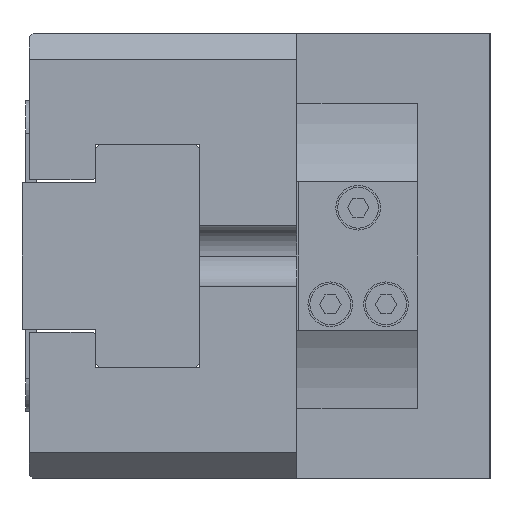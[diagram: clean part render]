
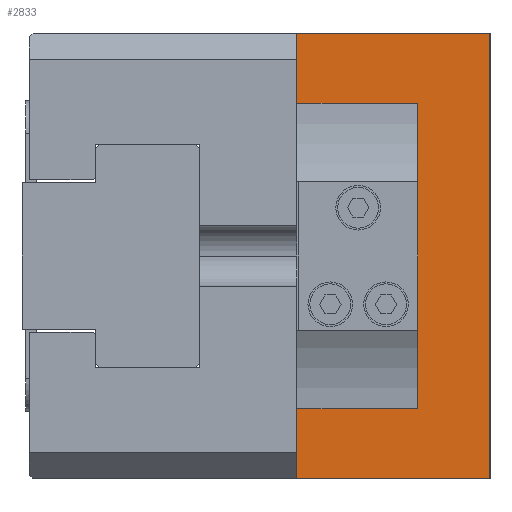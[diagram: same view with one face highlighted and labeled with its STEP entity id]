
A CAD part, left-side view. The second image highlights one B-rep face of the part: STEP entity #2833.
In plain terms, the highlighted planar face has unit normal (-1, 0, 0).
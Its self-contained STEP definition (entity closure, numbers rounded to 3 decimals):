
#381 = CARTESIAN_POINT ( 'NONE',  ( -50., 26., 20.536 ) ) ;
#395 = VECTOR ( 'NONE', #12239, 1000. ) ;
#710 = LINE ( 'NONE', #3405, #16121 ) ;
#728 = DIRECTION ( 'NONE',  ( 0., -1., 0. ) ) ;
#865 = FACE_OUTER_BOUND ( 'NONE', #15930, .T. ) ;
#1252 = EDGE_CURVE ( 'NONE', #9540, #16141, #7947, .T. ) ;
#1731 = DIRECTION ( 'NONE',  ( 0., 0., -1. ) ) ;
#1768 = LINE ( 'NONE', #12713, #3021 ) ;
#1976 = DIRECTION ( 'NONE',  ( 0., 0., -1. ) ) ;
#2442 = ORIENTED_EDGE ( 'NONE', *, *, #14039, .F. ) ;
#2503 = CARTESIAN_POINT ( 'NONE',  ( -50., 0., 30. ) ) ;
#2659 = VECTOR ( 'NONE', #13642, 1000. ) ;
#2805 = ORIENTED_EDGE ( 'NONE', *, *, #4672, .F. ) ;
#2833 = ADVANCED_FACE ( 'NONE', ( #865 ), #9213, .T. ) ;
#3021 = VECTOR ( 'NONE', #1976, 1000. ) ;
#3333 = CARTESIAN_POINT ( 'NONE',  ( -50., 9.75, -20.536 ) ) ;
#3405 = CARTESIAN_POINT ( 'NONE',  ( -50., 0., 30. ) ) ;
#4672 = EDGE_CURVE ( 'NONE', #6966, #13342, #10337, .T. ) ;
#5191 = ORIENTED_EDGE ( 'NONE', *, *, #10434, .T. ) ;
#5208 = DIRECTION ( 'NONE',  ( -1., 0., 0. ) ) ;
#5219 = EDGE_CURVE ( 'NONE', #15019, #12376, #710, .T. ) ;
#5319 = ORIENTED_EDGE ( 'NONE', *, *, #5219, .T. ) ;
#5563 = VERTEX_POINT ( 'NONE', #3333 ) ;
#5728 = ORIENTED_EDGE ( 'NONE', *, *, #6024, .T. ) ;
#5844 = CARTESIAN_POINT ( 'NONE',  ( -50., 0., -30. ) ) ;
#6024 = EDGE_CURVE ( 'NONE', #16141, #5563, #1768, .T. ) ;
#6281 = CARTESIAN_POINT ( 'NONE',  ( -50., 0., -30. ) ) ;
#6623 = VECTOR ( 'NONE', #15591, 1000. ) ;
#6966 = VERTEX_POINT ( 'NONE', #5844 ) ;
#6968 = ORIENTED_EDGE ( 'NONE', *, *, #9208, .F. ) ;
#7259 = CARTESIAN_POINT ( 'NONE',  ( -50., 26., 30. ) ) ;
#7849 = CARTESIAN_POINT ( 'NONE',  ( -50., 0., 30. ) ) ;
#7883 = CARTESIAN_POINT ( 'NONE',  ( -50., 0., 30. ) ) ;
#7925 = LINE ( 'NONE', #13601, #395 ) ;
#7947 = LINE ( 'NONE', #14300, #10214 ) ;
#8578 = VECTOR ( 'NONE', #13111, 1000. ) ;
#9134 = AXIS2_PLACEMENT_3D ( 'NONE', #2503, #5208, #17021 ) ;
#9208 = EDGE_CURVE ( 'NONE', #10562, #5563, #7925, .T. ) ;
#9213 = PLANE ( 'NONE',  #9134 ) ;
#9301 = EDGE_CURVE ( 'NONE', #12376, #9540, #14141, .T. ) ;
#9336 = CARTESIAN_POINT ( 'NONE',  ( -50., 9.75, 20.536 ) ) ;
#9540 = VERTEX_POINT ( 'NONE', #381 ) ;
#10214 = VECTOR ( 'NONE', #728, 1000. ) ;
#10337 = LINE ( 'NONE', #6281, #6623 ) ;
#10434 = EDGE_CURVE ( 'NONE', #10562, #13342, #16159, .T. ) ;
#10562 = VERTEX_POINT ( 'NONE', #11405 ) ;
#10805 = CARTESIAN_POINT ( 'NONE',  ( -50., 26., 30. ) ) ;
#11052 = ORIENTED_EDGE ( 'NONE', *, *, #1252, .T. ) ;
#11211 = CARTESIAN_POINT ( 'NONE',  ( -50., 26., -30. ) ) ;
#11405 = CARTESIAN_POINT ( 'NONE',  ( -50., 26., -20.536 ) ) ;
#11471 = DIRECTION ( 'NONE',  ( 0., 1., 0. ) ) ;
#11867 = VECTOR ( 'NONE', #1731, 1000. ) ;
#12239 = DIRECTION ( 'NONE',  ( 0., -1., 0. ) ) ;
#12376 = VERTEX_POINT ( 'NONE', #7259 ) ;
#12713 = CARTESIAN_POINT ( 'NONE',  ( -50., 9.75, 30. ) ) ;
#13111 = DIRECTION ( 'NONE',  ( 0., 0., -1. ) ) ;
#13342 = VERTEX_POINT ( 'NONE', #11211 ) ;
#13601 = CARTESIAN_POINT ( 'NONE',  ( -50., 26., -20.536 ) ) ;
#13642 = DIRECTION ( 'NONE',  ( 0., 0., -1. ) ) ;
#13971 = LINE ( 'NONE', #7883, #8578 ) ;
#14039 = EDGE_CURVE ( 'NONE', #15019, #6966, #13971, .T. ) ;
#14141 = LINE ( 'NONE', #10805, #11867 ) ;
#14300 = CARTESIAN_POINT ( 'NONE',  ( -50., 26., 20.536 ) ) ;
#14875 = CARTESIAN_POINT ( 'NONE',  ( -50., 26., 30. ) ) ;
#14898 = ORIENTED_EDGE ( 'NONE', *, *, #9301, .T. ) ;
#15019 = VERTEX_POINT ( 'NONE', #7849 ) ;
#15591 = DIRECTION ( 'NONE',  ( 0., 1., 0. ) ) ;
#15930 = EDGE_LOOP ( 'NONE', ( #5728, #6968, #5191, #2805, #2442, #5319, #14898, #11052 ) ) ;
#16121 = VECTOR ( 'NONE', #11471, 1000. ) ;
#16141 = VERTEX_POINT ( 'NONE', #9336 ) ;
#16159 = LINE ( 'NONE', #14875, #2659 ) ;
#17021 = DIRECTION ( 'NONE',  ( 0., 0., 1. ) ) ;
